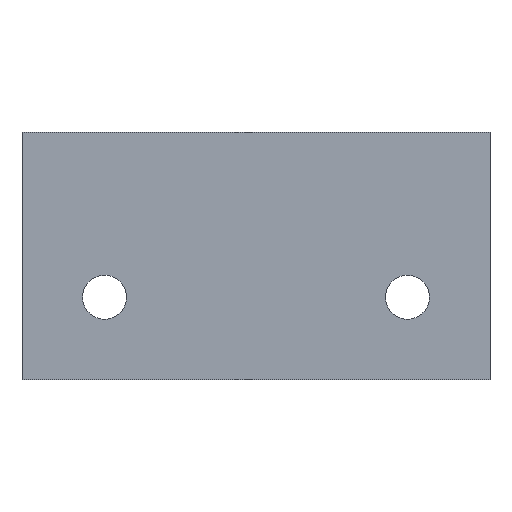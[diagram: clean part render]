
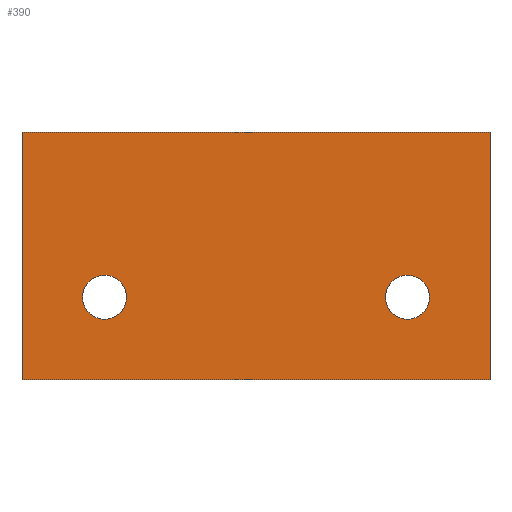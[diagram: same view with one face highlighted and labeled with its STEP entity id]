
A CAD part, top view. The second image highlights one B-rep face of the part: STEP entity #390.
In plain terms, the highlighted planar face has unit normal (0, 0, 1).
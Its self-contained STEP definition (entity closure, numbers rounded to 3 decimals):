
#184=CIRCLE('',#373,8.);
#185=CIRCLE('',#374,8.);
#188=ORIENTED_EDGE('',*,*,#256,.F.);
#189=ORIENTED_EDGE('',*,*,#257,.F.);
#190=ORIENTED_EDGE('',*,*,#258,.T.);
#191=ORIENTED_EDGE('',*,*,#259,.T.);
#192=ORIENTED_EDGE('',*,*,#260,.F.);
#193=ORIENTED_EDGE('',*,*,#261,.F.);
#220=VECTOR('',#302,1.);
#221=VECTOR('',#303,1.);
#222=VECTOR('',#304,1.);
#223=VECTOR('',#305,1.);
#232=LINE('',#339,#220);
#233=LINE('',#341,#221);
#234=LINE('',#343,#222);
#235=LINE('',#344,#223);
#244=VERTEX_POINT('',#337);
#245=VERTEX_POINT('',#338);
#246=VERTEX_POINT('',#340);
#247=VERTEX_POINT('',#342);
#248=VERTEX_POINT('',#345);
#249=VERTEX_POINT('',#347);
#256=EDGE_CURVE('',#244,#245,#232,.T.);
#257=EDGE_CURVE('',#246,#244,#233,.T.);
#258=EDGE_CURVE('',#246,#247,#234,.T.);
#259=EDGE_CURVE('',#247,#245,#235,.T.);
#260=EDGE_CURVE('',#248,#248,#184,.T.);
#261=EDGE_CURVE('',#249,#249,#185,.T.);
#272=EDGE_LOOP('',(#188,#189,#190,#191));
#273=EDGE_LOOP('',(#192));
#274=EDGE_LOOP('',(#193));
#286=FACE_BOUND('',#272,.T.);
#287=FACE_BOUND('',#273,.T.);
#288=FACE_BOUND('',#274,.T.);
#300=DIRECTION('',(0.,0.,1.));
#301=DIRECTION('',(0.,-1.,0.));
#302=DIRECTION('',(0.,90.,0.));
#303=DIRECTION('',(-170.,0.,0.));
#304=DIRECTION('',(0.,90.,0.));
#305=DIRECTION('',(-170.,0.,0.));
#306=DIRECTION('',(0.,0.,1.));
#307=DIRECTION('',(8.,0.,0.));
#308=DIRECTION('',(0.,0.,1.));
#309=DIRECTION('',(8.,0.,0.));
#336=CARTESIAN_POINT('',(170.,45.,5.));
#337=CARTESIAN_POINT('',(0.,-45.,5.));
#338=CARTESIAN_POINT('',(0.,45.,5.));
#339=CARTESIAN_POINT('',(0.,-45.,5.));
#340=CARTESIAN_POINT('',(170.,-45.,5.));
#341=CARTESIAN_POINT('',(170.,-45.,5.));
#342=CARTESIAN_POINT('',(170.,45.,5.));
#343=CARTESIAN_POINT('',(170.,-45.,5.));
#344=CARTESIAN_POINT('',(170.,45.,5.));
#345=CARTESIAN_POINT('',(148.,-15.,5.));
#346=CARTESIAN_POINT('',(140.,-15.,5.));
#347=CARTESIAN_POINT('',(38.,-15.,5.));
#348=CARTESIAN_POINT('',(30.,-15.,5.));
#372=AXIS2_PLACEMENT_3D('',#336,#300,#301);
#373=AXIS2_PLACEMENT_3D('',#346,#306,#307);
#374=AXIS2_PLACEMENT_3D('',#348,#308,#309);
#384=PLANE('',#372);
#390=ADVANCED_FACE('',(#286,#287,#288),#384,.T.);
